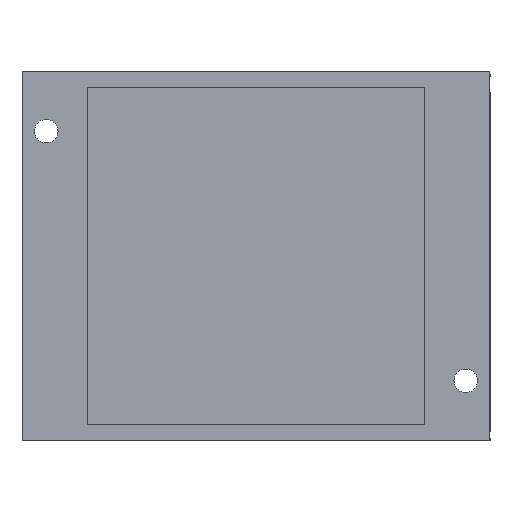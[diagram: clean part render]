
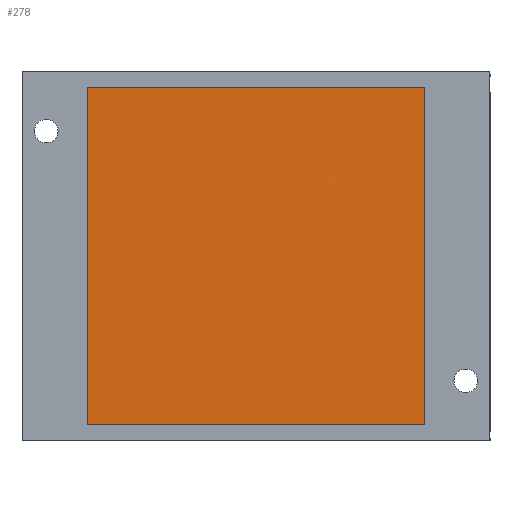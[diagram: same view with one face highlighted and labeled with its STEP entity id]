
A CAD part, front view. The second image highlights one B-rep face of the part: STEP entity #278.
In plain terms, the highlighted planar face has unit normal (0, -1, 0).
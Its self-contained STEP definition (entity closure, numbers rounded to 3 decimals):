
#278 = ADVANCED_FACE ( 'NONE', ( #1383 ), #1325, .F. ) ;
#376 = EDGE_LOOP ( 'NONE', ( #3008, #2680, #4809, #4840 ) ) ;
#708 = DIRECTION ( 'NONE',  ( 0., 0., 1. ) ) ;
#1158 = CARTESIAN_POINT ( 'NONE',  ( 22.86, -0.13, -22.86 ) ) ;
#1230 = VERTEX_POINT ( 'NONE', #2442 ) ;
#1325 = PLANE ( 'NONE',  #2986 ) ;
#1383 = FACE_OUTER_BOUND ( 'NONE', #376, .T. ) ;
#1487 = CARTESIAN_POINT ( 'NONE',  ( 22.86, -0.13, 22.86 ) ) ;
#1667 = LINE ( 'NONE', #2050, #4982 ) ;
#1717 = CARTESIAN_POINT ( 'NONE',  ( 0., -0.13, 0. ) ) ;
#1786 = DIRECTION ( 'NONE',  ( -1., 0., 0. ) ) ;
#1882 = CARTESIAN_POINT ( 'NONE',  ( 22.86, -0.13, 22.86 ) ) ;
#1978 = VECTOR ( 'NONE', #708, 1000. ) ;
#2050 = CARTESIAN_POINT ( 'NONE',  ( 22.86, -0.13, 22.86 ) ) ;
#2192 = VECTOR ( 'NONE', #1786, 1000. ) ;
#2442 = CARTESIAN_POINT ( 'NONE',  ( -22.86, -0.13, -22.86 ) ) ;
#2588 = CARTESIAN_POINT ( 'NONE',  ( -22.86, -0.13, 22.86 ) ) ;
#2632 = EDGE_CURVE ( 'NONE', #1230, #3414, #4535, .T. ) ;
#2680 = ORIENTED_EDGE ( 'NONE', *, *, #2821, .F. ) ;
#2821 = EDGE_CURVE ( 'NONE', #4762, #1230, #4554, .T. ) ;
#2986 = AXIS2_PLACEMENT_3D ( 'NONE', #1717, #3243, #4444 ) ;
#3008 = ORIENTED_EDGE ( 'NONE', *, *, #2632, .F. ) ;
#3243 = DIRECTION ( 'NONE',  ( 0., 1., 0. ) ) ;
#3246 = EDGE_CURVE ( 'NONE', #3980, #4762, #4235, .T. ) ;
#3386 = CARTESIAN_POINT ( 'NONE',  ( -22.86, -0.13, 22.86 ) ) ;
#3401 = CARTESIAN_POINT ( 'NONE',  ( 22.86, -0.13, -22.86 ) ) ;
#3413 = DIRECTION ( 'NONE',  ( 0., 0., -1. ) ) ;
#3414 = VERTEX_POINT ( 'NONE', #3386 ) ;
#3886 = VECTOR ( 'NONE', #3413, 1000. ) ;
#3980 = VERTEX_POINT ( 'NONE', #1882 ) ;
#4040 = DIRECTION ( 'NONE',  ( 1., 0., 0. ) ) ;
#4235 = LINE ( 'NONE', #1487, #3886 ) ;
#4444 = DIRECTION ( 'NONE',  ( 0., 0., 1. ) ) ;
#4488 = EDGE_CURVE ( 'NONE', #3414, #3980, #1667, .T. ) ;
#4535 = LINE ( 'NONE', #2588, #1978 ) ;
#4554 = LINE ( 'NONE', #3401, #2192 ) ;
#4762 = VERTEX_POINT ( 'NONE', #1158 ) ;
#4809 = ORIENTED_EDGE ( 'NONE', *, *, #3246, .F. ) ;
#4840 = ORIENTED_EDGE ( 'NONE', *, *, #4488, .F. ) ;
#4982 = VECTOR ( 'NONE', #4040, 1000. ) ;
